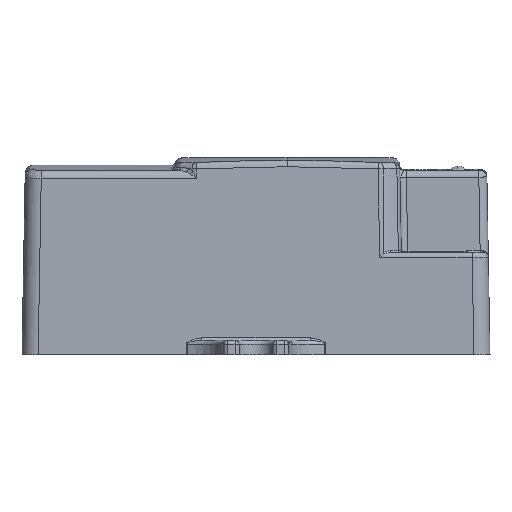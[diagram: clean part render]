
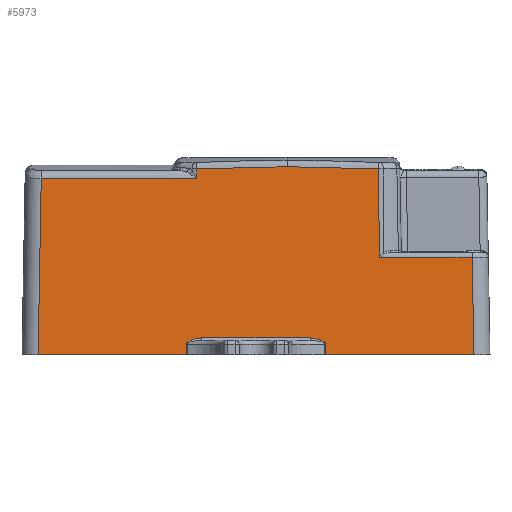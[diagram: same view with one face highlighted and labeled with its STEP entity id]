
A CAD part, front view. The second image highlights one B-rep face of the part: STEP entity #5973.
In plain terms, the highlighted planar face has unit normal (0, -1, 0.018).
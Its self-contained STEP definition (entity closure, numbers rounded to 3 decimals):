
#448=DIRECTION('',(1.,0.,0.));
#449=VECTOR('',#448,18.457);
#450=CARTESIAN_POINT('',(8.544,-18.25,0.));
#451=LINE('',#450,#449);
#517=DIRECTION('',(1.,0.,0.));
#518=VECTOR('',#517,18.457);
#519=CARTESIAN_POINT('',(-27.,-18.25,
0.));
#520=LINE('',#519,#518);
#554=CARTESIAN_POINT('',(-8.621,-18.227,1.295));
#555=CARTESIAN_POINT('',(-8.594,-18.235,
0.863));
#556=CARTESIAN_POINT('',(-8.569,-18.242,
0.432));
#557=CARTESIAN_POINT('',(-8.544,-18.25,
0.));
#559=DIRECTION('',(0.017,0.017,1.));
#560=VECTOR('',#559,21.891);
#561=CARTESIAN_POINT('',(-27.,-18.25,
0.));
#562=LINE('',#561,#560);
#563=CARTESIAN_POINT('',(-7.373,-17.868,21.885));
#564=CARTESIAN_POINT('',(-7.371,-17.861,22.273));
#565=CARTESIAN_POINT('',(-7.372,-17.854,22.661));
#566=CARTESIAN_POINT('',(-7.37,-17.848,23.05));
#568=CARTESIAN_POINT('',(-7.37,-17.848,23.05));
#569=CARTESIAN_POINT('',(-5.5,-17.846,23.131));
#570=CARTESIAN_POINT('',(-1.76,-17.844,23.265));
#571=CARTESIAN_POINT('',(1.98,-17.843,23.315));
#572=CARTESIAN_POINT('',(3.85,-17.843,23.315));
#574=CARTESIAN_POINT('',(3.85,-17.843,23.315));
#575=CARTESIAN_POINT('',(5.744,-17.843,23.315));
#576=CARTESIAN_POINT('',(9.531,-17.844,23.263));
#577=CARTESIAN_POINT('',(13.317,-17.846,23.126));
#578=CARTESIAN_POINT('',(15.209,-17.848,23.044));
#580=CARTESIAN_POINT('',(15.209,-17.848,23.044));
#581=CARTESIAN_POINT('',(15.229,-17.911,19.399));
#582=CARTESIAN_POINT('',(15.248,-17.975,15.755));
#583=CARTESIAN_POINT('',(15.267,-18.039,12.11));
#585=DIRECTION('',(0.017,-0.017,-1.));
#586=VECTOR('',#585,12.114);
#587=CARTESIAN_POINT('',(26.789,-18.039,12.11));
#588=LINE('',#587,#586);
#589=CARTESIAN_POINT('',(8.544,-18.25,0.));
#590=CARTESIAN_POINT('',(8.569,-18.242,0.432));
#591=CARTESIAN_POINT('',(8.594,-18.235,0.863));
#592=CARTESIAN_POINT('',(8.621,-18.227,1.295));
#594=CARTESIAN_POINT('',(8.621,-18.227,1.295));
#595=CARTESIAN_POINT('',(8.622,-18.227,1.31));
#596=CARTESIAN_POINT('',(8.621,-18.227,1.342));
#597=CARTESIAN_POINT('',(8.607,-18.226,1.394));
#598=CARTESIAN_POINT('',(8.579,-18.225,1.448));
#599=CARTESIAN_POINT('',(8.538,-18.224,1.503));
#600=CARTESIAN_POINT('',(8.483,-18.223,1.557));
#601=CARTESIAN_POINT('',(8.417,-18.222,1.61));
#602=CARTESIAN_POINT('',(8.339,-18.221,1.664));
#603=CARTESIAN_POINT('',(8.249,-18.22,1.717));
#604=CARTESIAN_POINT('',(8.146,-18.219,1.769));
#605=CARTESIAN_POINT('',(8.03,-18.218,1.821));
#606=CARTESIAN_POINT('',(7.899,-18.217,1.873));
#607=CARTESIAN_POINT('',(7.753,-18.216,1.924));
#608=CARTESIAN_POINT('',(7.588,-18.216,1.972));
#609=CARTESIAN_POINT('',(7.404,-18.215,2.017));
#610=CARTESIAN_POINT('',(7.197,-18.214,2.056));
#611=CARTESIAN_POINT('',(6.964,-18.214,2.086));
#612=CARTESIAN_POINT('',(6.787,-18.213,2.095));
#613=CARTESIAN_POINT('',(6.693,-18.213,2.095));
#2010=CARTESIAN_POINT('',(15.267,-18.039,12.11));
#2026=DIRECTION('',(-1.,0.,0.));
#2027=VECTOR('',#2026,11.521);
#2028=CARTESIAN_POINT('',(26.789,-18.039,12.11));
#2029=LINE('',#2028,#2027);
#2123=DIRECTION('',(-1.,0.,0.));
#2124=VECTOR('',#2123,19.245);
#2125=CARTESIAN_POINT('',(-7.373,-17.868,
21.885));
#2126=LINE('',#2125,#2124);
#3959=DIRECTION('',(1.,0.,0.));
#3960=VECTOR('',#3959,13.386);
#3961=CARTESIAN_POINT('',(-6.693,-18.213,
2.095));
#3962=LINE('',#3961,#3960);
#3995=CARTESIAN_POINT('',(-8.621,-18.227,
1.295));
#3996=CARTESIAN_POINT('',(-8.622,-18.227,
1.31));
#3997=CARTESIAN_POINT('',(-8.621,-18.227,
1.342));
#3998=CARTESIAN_POINT('',(-8.607,-18.226,
1.394));
#3999=CARTESIAN_POINT('',(-8.579,-18.225,
1.449));
#4000=CARTESIAN_POINT('',(-8.537,-18.224,
1.503));
#4001=CARTESIAN_POINT('',(-8.483,-18.223,
1.557));
#4002=CARTESIAN_POINT('',(-8.416,-18.222,
1.611));
#4003=CARTESIAN_POINT('',(-8.338,-18.221,
1.664));
#4004=CARTESIAN_POINT('',(-8.247,-18.22,
1.717));
#4005=CARTESIAN_POINT('',(-8.144,-18.219,
1.77));
#4006=CARTESIAN_POINT('',(-8.027,-18.218,
1.822));
#4007=CARTESIAN_POINT('',(-7.897,-18.217,
1.874));
#4008=CARTESIAN_POINT('',(-7.75,-18.216,
1.924));
#4009=CARTESIAN_POINT('',(-7.586,-18.216,
1.973));
#4010=CARTESIAN_POINT('',(-7.402,-18.215,
2.018));
#4011=CARTESIAN_POINT('',(-7.196,-18.214,
2.056));
#4012=CARTESIAN_POINT('',(-6.963,-18.214,
2.086));
#4013=CARTESIAN_POINT('',(-6.786,-18.213,
2.095));
#4014=CARTESIAN_POINT('',(-6.693,-18.213,
2.095));
#4458=VERTEX_POINT('',#2010);
#4459=CARTESIAN_POINT('',(26.789,-18.039,12.11));
#4460=VERTEX_POINT('',#4459);
#4461=VERTEX_POINT('',#580);
#4463=VERTEX_POINT('',#554);
#4464=VERTEX_POINT('',#557);
#4465=CARTESIAN_POINT('',(-27.,-18.25,
0.));
#4466=VERTEX_POINT('',#4465);
#4467=CARTESIAN_POINT('',(-26.618,-17.868,
21.885));
#4468=VERTEX_POINT('',#4467);
#4469=CARTESIAN_POINT('',(-7.373,-17.868,
21.885));
#4470=VERTEX_POINT('',#4469);
#4471=VERTEX_POINT('',#566);
#4472=VERTEX_POINT('',#572);
#4473=CARTESIAN_POINT('',(27.,-18.25,
0.));
#4474=VERTEX_POINT('',#4473);
#4475=CARTESIAN_POINT('',(8.544,-18.25,
0.));
#4476=VERTEX_POINT('',#4475);
#4477=VERTEX_POINT('',#592);
#4478=VERTEX_POINT('',#613);
#4479=CARTESIAN_POINT('',(-6.693,-18.213,
2.095));
#4480=VERTEX_POINT('',#4479);
#5939=CARTESIAN_POINT('',(-31.309,-18.25,0.));
#5940=DIRECTION('',(0.,-1.,0.017));
#5941=DIRECTION('',(-1.,0.,0.));
#5942=AXIS2_PLACEMENT_3D('',#5939,#5940,#5941);
#5943=PLANE('',#5942);
#5944=ORIENTED_EDGE('',*,*,#5930,.T.);
#5945=ORIENTED_EDGE('',*,*,#5865,.F.);
#5947=ORIENTED_EDGE('',*,*,#5946,.T.);
#5949=ORIENTED_EDGE('',*,*,#5948,.F.);
#5951=ORIENTED_EDGE('',*,*,#5950,.T.);
#5953=ORIENTED_EDGE('',*,*,#5952,.T.);
#5955=ORIENTED_EDGE('',*,*,#5954,.T.);
#5957=ORIENTED_EDGE('',*,*,#5956,.T.);
#5959=ORIENTED_EDGE('',*,*,#5958,.F.);
#5961=ORIENTED_EDGE('',*,*,#5960,.T.);
#5962=ORIENTED_EDGE('',*,*,#5827,.F.);
#5964=ORIENTED_EDGE('',*,*,#5963,.T.);
#5966=ORIENTED_EDGE('',*,*,#5965,.T.);
#5968=ORIENTED_EDGE('',*,*,#5967,.F.);
#5970=ORIENTED_EDGE('',*,*,#5969,.F.);
#5971=EDGE_LOOP('',(#5944,#5945,#5947,#5949,#5951,#5953,#5955,#5957,#5959,#5961,
#5962,#5964,#5966,#5968,#5970));
#5972=FACE_OUTER_BOUND('',#5971,.F.);
#558=B_SPLINE_CURVE_WITH_KNOTS('',3,(#554,#555,#556,#557),.UNSPECIFIED.,.F.,.F.,
(4,4),(0.,1.),.UNSPECIFIED.);
#567=B_SPLINE_CURVE_WITH_KNOTS('',3,(#563,#564,#565,#566),.UNSPECIFIED.,.F.,.F.,
(4,4),(0.,1.),.UNSPECIFIED.);
#573=B_SPLINE_CURVE_WITH_KNOTS('',3,(#568,#569,#570,#571,#572),.UNSPECIFIED.,
.F.,.F.,(4,1,4),(0.,0.5,1.),.UNSPECIFIED.);
#579=B_SPLINE_CURVE_WITH_KNOTS('',3,(#574,#575,#576,#577,#578),.UNSPECIFIED.,
.F.,.F.,(4,1,4),(0.,0.5,1.),.UNSPECIFIED.);
#584=B_SPLINE_CURVE_WITH_KNOTS('',3,(#580,#581,#582,#583),.UNSPECIFIED.,.F.,.F.,
(4,4),(0.,1.),.UNSPECIFIED.);
#593=B_SPLINE_CURVE_WITH_KNOTS('',3,(#589,#590,#591,#592),.UNSPECIFIED.,.F.,.F.,
(4,4),(0.,1.),.UNSPECIFIED.);
#614=B_SPLINE_CURVE_WITH_KNOTS('',3,(#594,#595,#596,#597,#598,#599,#600,#601,
#602,#603,#604,#605,#606,#607,#608,#609,#610,#611,#612,#613),.UNSPECIFIED.,.F.,
.F.,(4,1,1,1,1,1,1,1,1,1,1,1,1,1,1,1,1,4),(0.,0.059,
0.118,0.176,0.235,0.294,
0.353,0.412,0.471,0.529,
0.588,0.647,0.706,0.765,
0.824,0.882,0.941,1.),.UNSPECIFIED.);
#4015=B_SPLINE_CURVE_WITH_KNOTS('',3,(#3995,#3996,#3997,#3998,#3999,#4000,#4001,
#4002,#4003,#4004,#4005,#4006,#4007,#4008,#4009,#4010,#4011,#4012,#4013,#4014),
.UNSPECIFIED.,.F.,.F.,(4,1,1,1,1,1,1,1,1,1,1,1,1,1,1,1,1,4),(0.,
0.059,0.118,0.176,0.235,
0.294,0.353,0.412,0.471,
0.529,0.588,0.647,0.706,
0.765,0.824,0.882,0.941,1.),
.UNSPECIFIED.);
#5827=EDGE_CURVE('',#4476,#4474,#451,.T.);
#5865=EDGE_CURVE('',#4466,#4464,#520,.T.);
#5930=EDGE_CURVE('',#4463,#4464,#558,.T.);
#5946=EDGE_CURVE('',#4466,#4468,#562,.T.);
#5948=EDGE_CURVE('',#4470,#4468,#2126,.T.);
#5950=EDGE_CURVE('',#4470,#4471,#567,.T.);
#5952=EDGE_CURVE('',#4471,#4472,#573,.T.);
#5954=EDGE_CURVE('',#4472,#4461,#579,.T.);
#5956=EDGE_CURVE('',#4461,#4458,#584,.T.);
#5958=EDGE_CURVE('',#4460,#4458,#2029,.T.);
#5960=EDGE_CURVE('',#4460,#4474,#588,.T.);
#5963=EDGE_CURVE('',#4476,#4477,#593,.T.);
#5965=EDGE_CURVE('',#4477,#4478,#614,.T.);
#5967=EDGE_CURVE('',#4480,#4478,#3962,.T.);
#5969=EDGE_CURVE('',#4463,#4480,#4015,.T.);
#5973=ADVANCED_FACE('',(#5972),#5943,.T.);
